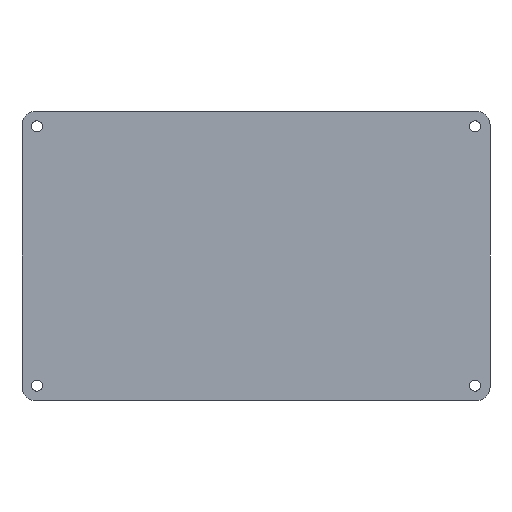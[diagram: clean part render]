
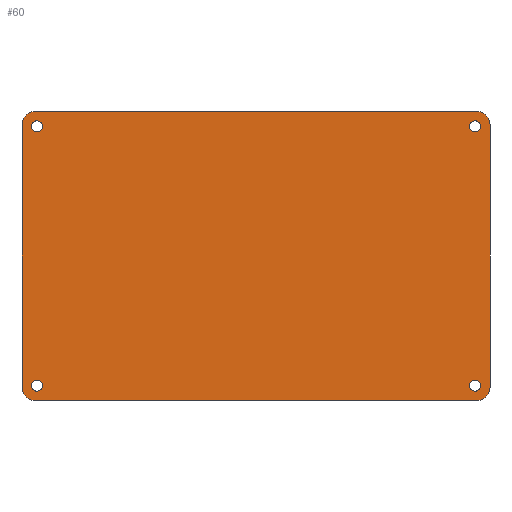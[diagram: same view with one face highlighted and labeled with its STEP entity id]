
A CAD part, front view. The second image highlights one B-rep face of the part: STEP entity #60.
In plain terms, the highlighted planar face has unit normal (0, -1, 0).
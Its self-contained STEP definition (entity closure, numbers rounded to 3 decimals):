
#2 = DIRECTION ( 'NONE',  ( 0., 1., 0. ) ) ;
#21 = CARTESIAN_POINT ( 'NONE',  ( 73.5, -3., -45.35 ) ) ;
#25 = EDGE_LOOP ( 'NONE', ( #1010, #495, #176, #927, #855, #728, #560, #854 ) ) ;
#29 = CARTESIAN_POINT ( 'NONE',  ( 73.5, -3., 43.5 ) ) ;
#42 = EDGE_LOOP ( 'NONE', ( #813, #592 ) ) ;
#60 = ADVANCED_FACE ( 'NONE', ( #342, #206, #699, #177, #605 ), #104, .F. ) ;
#61 = CARTESIAN_POINT ( 'NONE',  ( -74., -3., -48.5 ) ) ;
#65 = EDGE_CURVE ( 'NONE', #738, #370, #1183, .T. ) ;
#67 = DIRECTION ( 'NONE',  ( -1., 0., 0. ) ) ;
#71 = DIRECTION ( 'NONE',  ( 1., 0., 0. ) ) ;
#74 = CARTESIAN_POINT ( 'NONE',  ( 73.5, -3., -43.5 ) ) ;
#102 = CARTESIAN_POINT ( 'NONE',  ( 73.5, -3., -43.5 ) ) ;
#104 = PLANE ( 'NONE',  #1106 ) ;
#105 = AXIS2_PLACEMENT_3D ( 'NONE', #533, #789, #708 ) ;
#121 = DIRECTION ( 'NONE',  ( 0., 1., 0. ) ) ;
#129 = VECTOR ( 'NONE', #210, 1000. ) ;
#152 = VERTEX_POINT ( 'NONE', #942 ) ;
#167 = CARTESIAN_POINT ( 'NONE',  ( -74., -3., 44. ) ) ;
#176 = ORIENTED_EDGE ( 'NONE', *, *, #631, .F. ) ;
#177 = FACE_BOUND ( 'NONE', #671, .T. ) ;
#179 = VERTEX_POINT ( 'NONE', #679 ) ;
#190 = VERTEX_POINT ( 'NONE', #591 ) ;
#200 = CIRCLE ( 'NONE', #1082, 1.85 ) ;
#206 = FACE_BOUND ( 'NONE', #208, .T. ) ;
#208 = EDGE_LOOP ( 'NONE', ( #786, #369 ) ) ;
#209 = AXIS2_PLACEMENT_3D ( 'NONE', #269, #363, #630 ) ;
#210 = DIRECTION ( 'NONE',  ( 0., 0., 1. ) ) ;
#241 = AXIS2_PLACEMENT_3D ( 'NONE', #74, #1173, #292 ) ;
#251 = CIRCLE ( 'NONE', #105, 4.5 ) ;
#262 = CIRCLE ( 'NONE', #1024, 4.5 ) ;
#265 = EDGE_LOOP ( 'NONE', ( #1100, #642 ) ) ;
#268 = DIRECTION ( 'NONE',  ( 0., 0., -1. ) ) ;
#269 = CARTESIAN_POINT ( 'NONE',  ( 74., -3., 44. ) ) ;
#271 = AXIS2_PLACEMENT_3D ( 'NONE', #102, #651, #553 ) ;
#282 = CARTESIAN_POINT ( 'NONE',  ( -73.5, -3., 43.5 ) ) ;
#289 = CIRCLE ( 'NONE', #241, 1.85 ) ;
#292 = DIRECTION ( 'NONE',  ( 0., 0., 1. ) ) ;
#297 = DIRECTION ( 'NONE',  ( 0., 1., 0. ) ) ;
#307 = EDGE_CURVE ( 'NONE', #190, #368, #418, .T. ) ;
#312 = CARTESIAN_POINT ( 'NONE',  ( -74., -3., -44. ) ) ;
#327 = EDGE_CURVE ( 'NONE', #635, #152, #262, .T. ) ;
#341 = VERTEX_POINT ( 'NONE', #1158 ) ;
#342 = FACE_BOUND ( 'NONE', #265, .T. ) ;
#351 = EDGE_CURVE ( 'NONE', #420, #190, #251, .T. ) ;
#363 = DIRECTION ( 'NONE',  ( 0., 1., 0. ) ) ;
#368 = VERTEX_POINT ( 'NONE', #61 ) ;
#369 = ORIENTED_EDGE ( 'NONE', *, *, #387, .T. ) ;
#370 = VERTEX_POINT ( 'NONE', #1068 ) ;
#374 = CIRCLE ( 'NONE', #1104, 1.85 ) ;
#381 = CARTESIAN_POINT ( 'NONE',  ( 78.5, -3., -44. ) ) ;
#386 = DIRECTION ( 'NONE',  ( 0., 1., 0. ) ) ;
#387 = EDGE_CURVE ( 'NONE', #577, #509, #289, .T. ) ;
#396 = EDGE_CURVE ( 'NONE', #858, #420, #698, .T. ) ;
#397 = DIRECTION ( 'NONE',  ( 0., 0., 1. ) ) ;
#398 = CARTESIAN_POINT ( 'NONE',  ( -74., -3., 44. ) ) ;
#400 = CIRCLE ( 'NONE', #271, 1.85 ) ;
#403 = DIRECTION ( 'NONE',  ( 0., 0., 1. ) ) ;
#418 = LINE ( 'NONE', #704, #1139 ) ;
#419 = DIRECTION ( 'NONE',  ( 0., 1., 0. ) ) ;
#420 = VERTEX_POINT ( 'NONE', #381 ) ;
#495 = ORIENTED_EDGE ( 'NONE', *, *, #565, .F. ) ;
#496 = CARTESIAN_POINT ( 'NONE',  ( -73.5, -3., 43.5 ) ) ;
#509 = VERTEX_POINT ( 'NONE', #917 ) ;
#533 = CARTESIAN_POINT ( 'NONE',  ( 74., -3., -44. ) ) ;
#553 = DIRECTION ( 'NONE',  ( 0., 0., 1. ) ) ;
#556 = CIRCLE ( 'NONE', #795, 1.85 ) ;
#560 = ORIENTED_EDGE ( 'NONE', *, *, #809, .F. ) ;
#564 = CARTESIAN_POINT ( 'NONE',  ( 78.5, -3., 44. ) ) ;
#565 = EDGE_CURVE ( 'NONE', #800, #635, #900, .T. ) ;
#569 = DIRECTION ( 'NONE',  ( 0., 0., 1. ) ) ;
#572 = DIRECTION ( 'NONE',  ( 0., 0., 1. ) ) ;
#577 = VERTEX_POINT ( 'NONE', #21 ) ;
#591 = CARTESIAN_POINT ( 'NONE',  ( 74., -3., -48.5 ) ) ;
#592 = ORIENTED_EDGE ( 'NONE', *, *, #1015, .T. ) ;
#598 = DIRECTION ( 'NONE',  ( 0., 1., 0. ) ) ;
#605 = FACE_OUTER_BOUND ( 'NONE', #25, .T. ) ;
#614 = CIRCLE ( 'NONE', #1000, 4.5 ) ;
#615 = VERTEX_POINT ( 'NONE', #837 ) ;
#624 = EDGE_CURVE ( 'NONE', #1185, #179, #200, .T. ) ;
#629 = VECTOR ( 'NONE', #268, 1000. ) ;
#630 = DIRECTION ( 'NONE',  ( 0., 0., 1. ) ) ;
#631 = EDGE_CURVE ( 'NONE', #368, #800, #614, .T. ) ;
#635 = VERTEX_POINT ( 'NONE', #752 ) ;
#642 = ORIENTED_EDGE ( 'NONE', *, *, #624, .T. ) ;
#651 = DIRECTION ( 'NONE',  ( 0., 1., 0. ) ) ;
#662 = EDGE_CURVE ( 'NONE', #615, #341, #810, .T. ) ;
#671 = EDGE_LOOP ( 'NONE', ( #1143, #873 ) ) ;
#679 = CARTESIAN_POINT ( 'NONE',  ( -73.5, -3., -41.65 ) ) ;
#690 = CARTESIAN_POINT ( 'NONE',  ( -73.5, -3., 41.65 ) ) ;
#697 = EDGE_CURVE ( 'NONE', #179, #1185, #836, .T. ) ;
#698 = LINE ( 'NONE', #1064, #629 ) ;
#699 = FACE_BOUND ( 'NONE', #42, .T. ) ;
#701 = VERTEX_POINT ( 'NONE', #1051 ) ;
#704 = CARTESIAN_POINT ( 'NONE',  ( -74., -3., -48.5 ) ) ;
#705 = AXIS2_PLACEMENT_3D ( 'NONE', #496, #386, #839 ) ;
#708 = DIRECTION ( 'NONE',  ( 0., 0., 1. ) ) ;
#728 = ORIENTED_EDGE ( 'NONE', *, *, #396, .F. ) ;
#730 = AXIS2_PLACEMENT_3D ( 'NONE', #958, #419, #1134 ) ;
#738 = VERTEX_POINT ( 'NONE', #690 ) ;
#746 = CARTESIAN_POINT ( 'NONE',  ( -78.5, -3., -44. ) ) ;
#752 = CARTESIAN_POINT ( 'NONE',  ( -78.5, -3., 44. ) ) ;
#763 = VECTOR ( 'NONE', #71, 1000. ) ;
#770 = EDGE_CURVE ( 'NONE', #152, #701, #923, .T. ) ;
#786 = ORIENTED_EDGE ( 'NONE', *, *, #875, .T. ) ;
#789 = DIRECTION ( 'NONE',  ( 0., 1., 0. ) ) ;
#790 = DIRECTION ( 'NONE',  ( 0., 0., 1. ) ) ;
#795 = AXIS2_PLACEMENT_3D ( 'NONE', #282, #2, #918 ) ;
#800 = VERTEX_POINT ( 'NONE', #1175 ) ;
#809 = EDGE_CURVE ( 'NONE', #701, #858, #978, .T. ) ;
#810 = CIRCLE ( 'NONE', #993, 1.85 ) ;
#813 = ORIENTED_EDGE ( 'NONE', *, *, #662, .T. ) ;
#836 = CIRCLE ( 'NONE', #730, 1.85 ) ;
#837 = CARTESIAN_POINT ( 'NONE',  ( 73.5, -3., 45.35 ) ) ;
#839 = DIRECTION ( 'NONE',  ( 0., 0., 1. ) ) ;
#854 = ORIENTED_EDGE ( 'NONE', *, *, #770, .F. ) ;
#855 = ORIENTED_EDGE ( 'NONE', *, *, #351, .F. ) ;
#858 = VERTEX_POINT ( 'NONE', #564 ) ;
#860 = DIRECTION ( 'NONE',  ( 0., 0., 1. ) ) ;
#873 = ORIENTED_EDGE ( 'NONE', *, *, #65, .T. ) ;
#875 = EDGE_CURVE ( 'NONE', #509, #577, #400, .T. ) ;
#900 = LINE ( 'NONE', #746, #129 ) ;
#917 = CARTESIAN_POINT ( 'NONE',  ( 73.5, -3., -41.65 ) ) ;
#918 = DIRECTION ( 'NONE',  ( 0., 0., 1. ) ) ;
#923 = LINE ( 'NONE', #1093, #763 ) ;
#925 = EDGE_CURVE ( 'NONE', #370, #738, #556, .T. ) ;
#927 = ORIENTED_EDGE ( 'NONE', *, *, #307, .F. ) ;
#940 = DIRECTION ( 'NONE',  ( 0., 1., 0. ) ) ;
#942 = CARTESIAN_POINT ( 'NONE',  ( -74., -3., 48.5 ) ) ;
#958 = CARTESIAN_POINT ( 'NONE',  ( -73.5, -3., -43.5 ) ) ;
#978 = CIRCLE ( 'NONE', #209, 4.5 ) ;
#993 = AXIS2_PLACEMENT_3D ( 'NONE', #1045, #598, #860 ) ;
#1000 = AXIS2_PLACEMENT_3D ( 'NONE', #312, #940, #397 ) ;
#1010 = ORIENTED_EDGE ( 'NONE', *, *, #327, .F. ) ;
#1015 = EDGE_CURVE ( 'NONE', #341, #615, #374, .T. ) ;
#1024 = AXIS2_PLACEMENT_3D ( 'NONE', #167, #1077, #790 ) ;
#1045 = CARTESIAN_POINT ( 'NONE',  ( 73.5, -3., 43.5 ) ) ;
#1051 = CARTESIAN_POINT ( 'NONE',  ( 74., -3., 48.5 ) ) ;
#1064 = CARTESIAN_POINT ( 'NONE',  ( 78.5, -3., -44. ) ) ;
#1068 = CARTESIAN_POINT ( 'NONE',  ( -73.5, -3., 45.35 ) ) ;
#1077 = DIRECTION ( 'NONE',  ( 0., 1., 0. ) ) ;
#1082 = AXIS2_PLACEMENT_3D ( 'NONE', #1115, #121, #572 ) ;
#1093 = CARTESIAN_POINT ( 'NONE',  ( -74., -3., 48.5 ) ) ;
#1100 = ORIENTED_EDGE ( 'NONE', *, *, #697, .T. ) ;
#1104 = AXIS2_PLACEMENT_3D ( 'NONE', #29, #1121, #569 ) ;
#1106 = AXIS2_PLACEMENT_3D ( 'NONE', #398, #297, #403 ) ;
#1115 = CARTESIAN_POINT ( 'NONE',  ( -73.5, -3., -43.5 ) ) ;
#1121 = DIRECTION ( 'NONE',  ( 0., 1., 0. ) ) ;
#1132 = CARTESIAN_POINT ( 'NONE',  ( -73.5, -3., -45.35 ) ) ;
#1134 = DIRECTION ( 'NONE',  ( 0., 0., 1. ) ) ;
#1139 = VECTOR ( 'NONE', #67, 1000. ) ;
#1143 = ORIENTED_EDGE ( 'NONE', *, *, #925, .T. ) ;
#1158 = CARTESIAN_POINT ( 'NONE',  ( 73.5, -3., 41.65 ) ) ;
#1173 = DIRECTION ( 'NONE',  ( 0., 1., 0. ) ) ;
#1175 = CARTESIAN_POINT ( 'NONE',  ( -78.5, -3., -44. ) ) ;
#1183 = CIRCLE ( 'NONE', #705, 1.85 ) ;
#1185 = VERTEX_POINT ( 'NONE', #1132 ) ;
